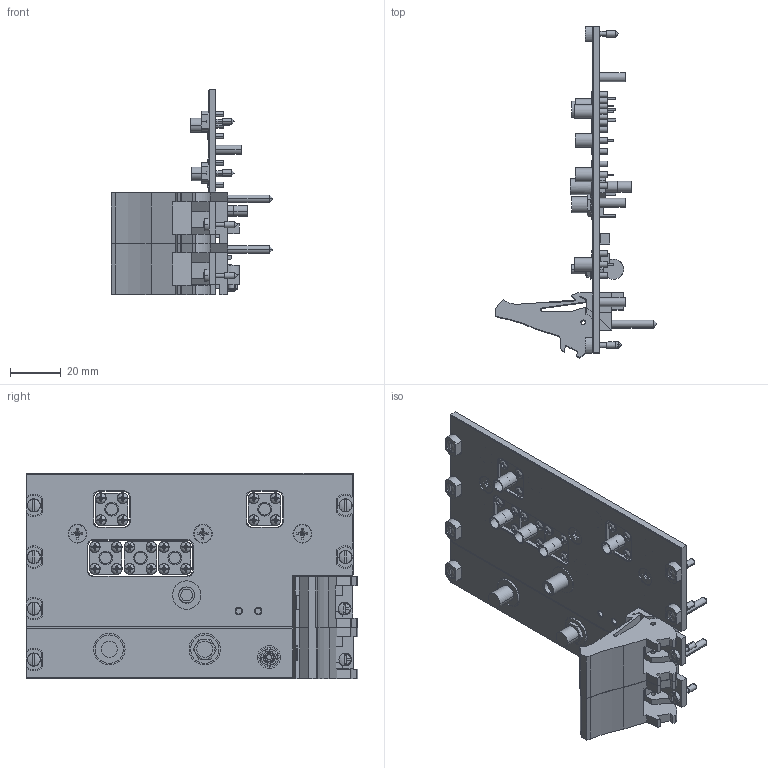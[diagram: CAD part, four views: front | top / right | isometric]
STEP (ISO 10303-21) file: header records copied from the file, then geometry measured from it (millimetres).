
FILE_DESCRIPTION((''),'2;1');
FILE_NAME('CD_PXI-5660','2009-12-30T',('jjorden'),(''),'PRO/ENGINEER BY PARAMETRIC TECHNOLOGY CORPORATION, 2006080','PRO/ENGINEER BY PARAMETRIC TECHNOLOGY CORPORATION, 2006080','');
FILE_SCHEMA(('CONFIG_CONTROL_DESIGN'));
Products named in the file (1): CD_PXI-5660
Bounding box: 63.53 x 130.51 x 80.67 mm (x, y, z)
Volume: 45993.3 mm3; surface area: 40067.5 mm2
Topology: 11 solids, 11 shells, 2221 faces, 5718 edges, 3207 vertices
Faces by surface type: plane 1120, cylinder 480, bspline 466, sphere 62, cone 49, torus 44
Entity records: 73962 total; most frequent: CARTESIAN_POINT 24198, ORIENTED_EDGE 10476, DIRECTION 9572, EDGE_CURVE 5238, VERTEX_POINT 3663, AXIS2_PLACEMENT_3D 3381, VECTOR 2810, LINE 2810
